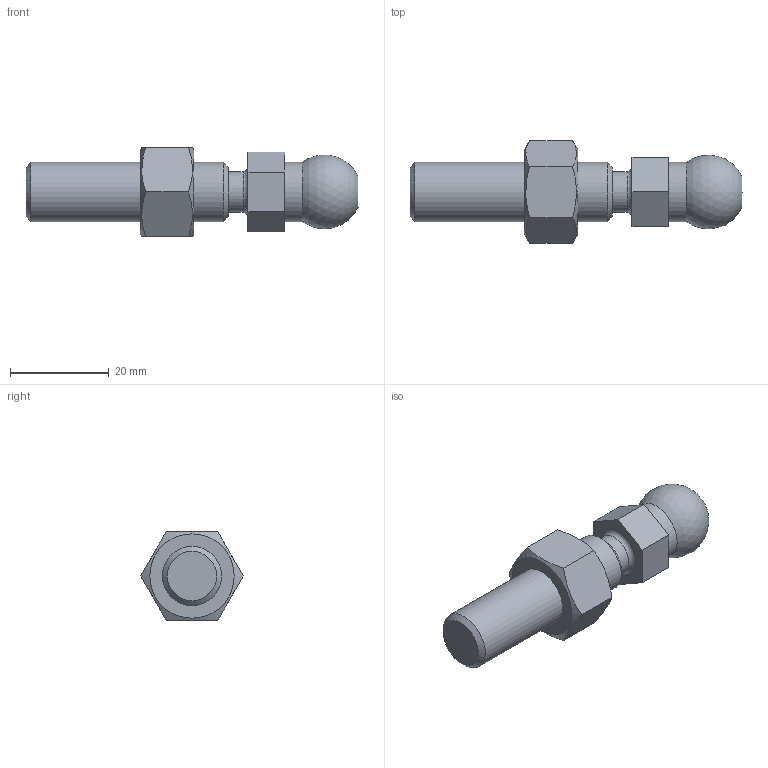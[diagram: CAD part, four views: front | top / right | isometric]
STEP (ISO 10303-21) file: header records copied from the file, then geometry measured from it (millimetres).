
FILE_DESCRIPTION(('STEP AP203'), '1');
FILE_NAME('A00020.112045', '', ('UNSPECIFIED'), ('UNSPECIFIED'), 'C3D Converter', 'C3D Toolkit', '');
FILE_SCHEMA(('CONFIG_CONTROL_DESIGN'));
Length unit declared in the file: millimetre
Products named in the file (2): A00020.112045
Assembly tree (1 placements, depth 2):
  A00020.112045
    (unnamed)
Bounding box: 67.3 x 20.78 x 18 mm (x, y, z)
Volume: 10085 mm3; surface area: 4337.9 mm2
Topology: 2 solids, 2 shells, 31 faces, 64 edges, 40 vertices
Faces by surface type: plane 19, cone 6, cylinder 4, torus 1, sphere 1
Full cylindrical faces by diameter (mm): 8.3 x1, 10.647 x1, 12 x2
Entity records: 1399 total; most frequent: CARTESIAN_POINT 701, DIRECTION 122, ORIENTED_EDGE 104, EDGE_CURVE 52, AXIS2_PLACEMENT_3D 49, EDGE_LOOP 48, VERTEX_POINT 40, ADVANCED_FACE 31
